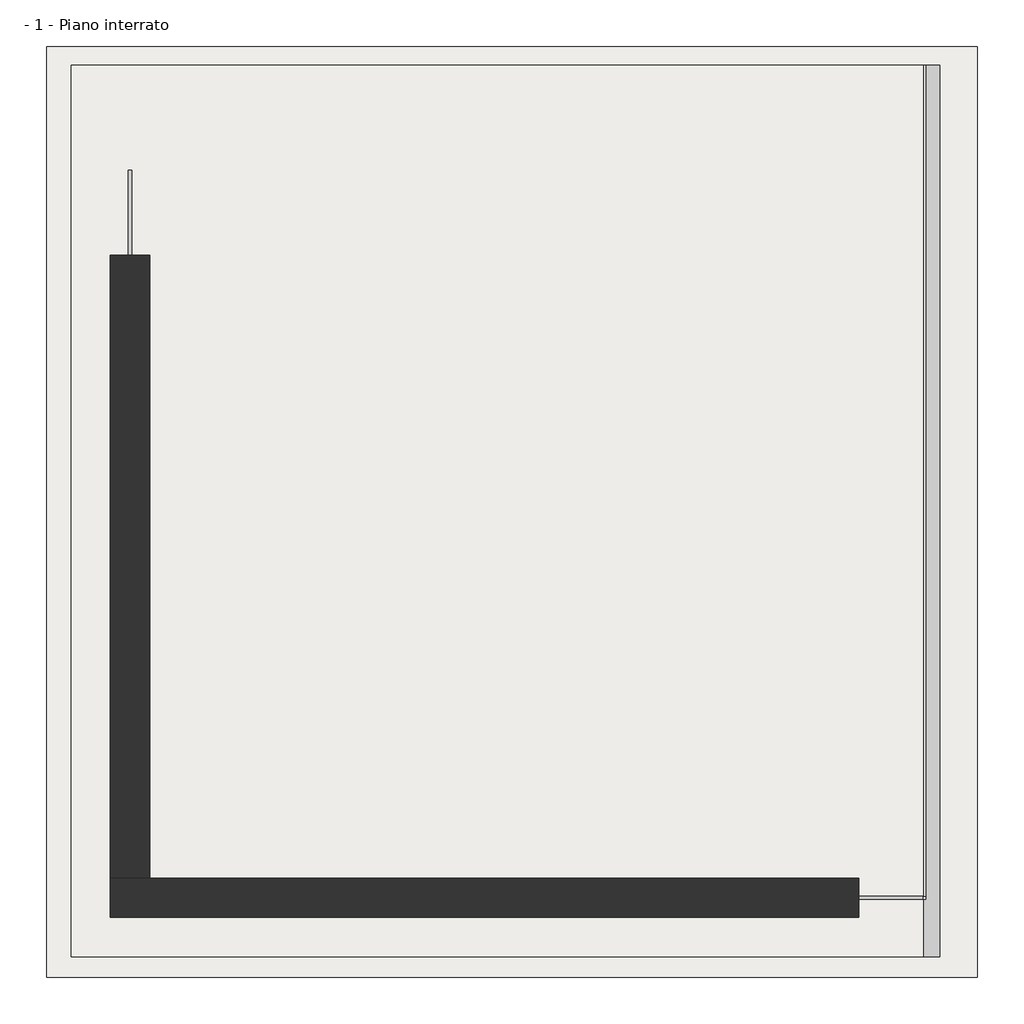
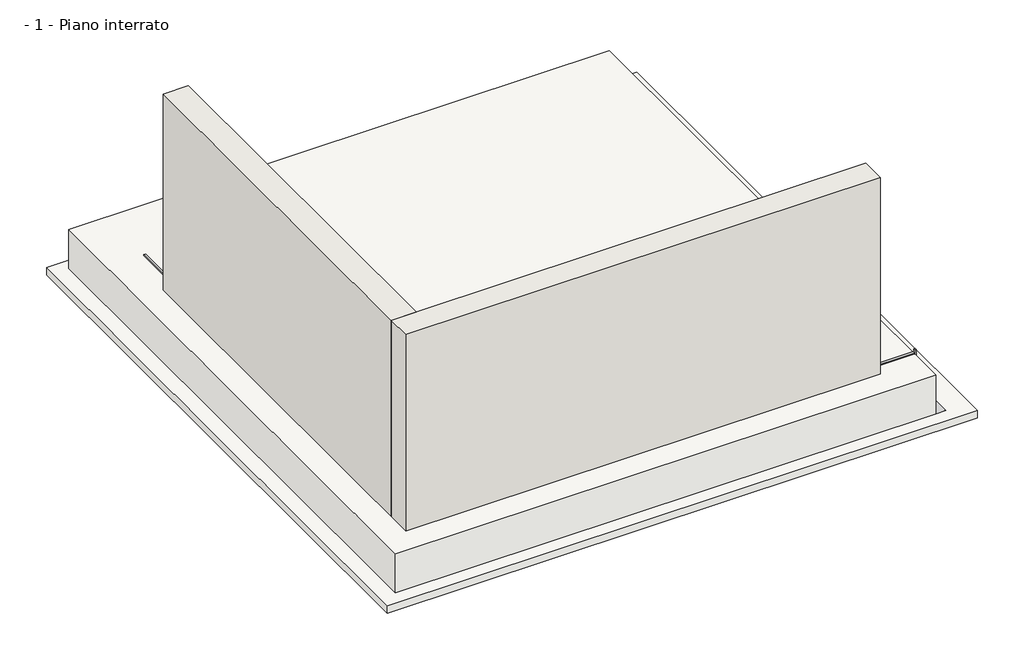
# One storey: 3 walls, 2 proxies, 2 slabs.
"""IFC4 building model written with IfcOpenShell, lengths in millimetres."""

from ifc_helpers import new_model, si_unit, frame, origin, place, context, project, spatial, polyline, outline, extrude, faceted_brep, element, save

model = new_model("IFC4")

# Units and contexts
model_context = context("Model", 3, world=origin())
ifc_project = project(units=[si_unit("LENGTHUNIT", "METRE", prefix="MILLI")], contexts=[model_context])

# Site, building, storey
site = spatial("IfcSite", under=ifc_project)
building = spatial("IfcBuilding", under=site)
storey = spatial("IfcBuildingStorey", under=building, Name="- 1 - Piano interrato", Elevation=-2500.0)

# Proxies
placement = place(None, origin())
element("IfcBuildingElementProxy", 1, Name="WT CONSTRUCTION Volteco", ObjectType="WT CONSTRUCTION Volteco", at=placement, inside=storey, context=model_context, shape_type="SweptSolid", body=[
    extrude(outline(polyline([(-7656.2815655, -9948.2549823), (-7681.2815655, -9973.2549823), (-7681.2815655, -4410.7549823), (-7656.2815655, -4410.7549823), (-7656.2815655, -9948.2549823)])), frame((0.0, 0.0, -2500.0), z_axis=(0.0, 0.0, 1.0), x_axis=(1.0, 0.0, 0.0)), (0.0, 0.0, 1.0), 15.0),
    extrude(outline(polyline([(-1617.7815655, -9948.2549823), (-1617.7815655, -9973.2549823), (-7681.2815655, -9973.2549823), (-7656.2815655, -9948.2549823), (-1617.7815655, -9948.2549823)])), frame((0.0, 0.0, -2500.0), z_axis=(0.0, 0.0, 1.0), x_axis=(1.0, 0.0, 0.0)), (0.0, 0.0, 1.0), 15.0),
])
element("IfcBuildingElementProxy", 2, Name="WT PANEL VOLTECO", ObjectType="WT PANEL VOLTECO", at=placement, inside=storey, context=model_context, shape_type="SweptSolid", body=[
    extrude(outline(polyline([(-1492.7815655, -3610.7549823), (-1492.7815655, -10410.7549823), (-1617.7815655, -10410.7549823), (-1617.7815655, -3610.7549823), (-1492.7815655, -3610.7549823)])), frame((0.0, 0.0, -3000.0), z_axis=(0.0, 0.0, 1.0), x_axis=(1.0, 0.0, 0.0)), (0.0, 0.0, 1.0), 5.0),
])

# Slabs
element("IfcSlab", 3, ObjectType="Magrone - 10 cm", at=placement, inside=storey, context=model_context, shape_type="SweptSolid", body=[
    extrude(outline(polyline([(-1204.7976812, -3468.3243285), (-1204.7976812, -10568.3243285), (-8304.7976812, -10568.3243285), (-8304.7976812, -3468.3243285), (-1204.7976812, -3468.3243285)])), frame((0.0, 0.0, -3100.0), z_axis=(0.0, 0.0, 1.0), x_axis=(1.0, 0.0, 0.0)), (0.0, 0.0, 1.0), 100.0),
])
element("IfcSlab", 4, ObjectType="Platea - 50 cm", at=placement, inside=storey, context=model_context, shape_type="Brep", body=[
    faceted_brep([(-1617.7815655, -3610.7549823, -3000.0), (-1617.7815655, -10410.7549823, -3000.0), (-8117.7815655, -10410.7549823, -3000.0), (-8117.7815655, -3610.7549823, -3000.0), (-1617.7815655, -3610.7549823, -2500.0), (-8117.7815655, -3610.7549823, -2500.0), (-8117.7815655, -10410.7549823, -2500.0), (-1617.7815655, -10410.7549823, -2500.0), (-1617.7815655, -3610.7549823, -2995.0), (-1617.7815655, -10410.7549823, -2995.0)], [[[0, 1, 2, 3]], [[4, 5, 6, 7]], [[1, 0, 8, 4, 7, 9]], [[2, 1, 9, 7, 6]], [[3, 2, 6, 5]], [[0, 3, 5, 4, 8]]]),
])

# Walls
element("IfcWall", 5, ObjectType="WT EXPANSION VOLTECO", at=placement, inside=storey, context=model_context, shape_type="SweptSolid", body=[
    extrude(outline(polyline([(-9973.2549823, -2620.0), (-9973.2549823, -2451.4865243), (-9953.2549823, -2451.4865243), (-9953.2549823, -2600.0), (-3610.7549823, -2600.0), (-3610.7549823, -2620.0), (-9973.2549823, -2620.0)])), frame((-1617.7815655, 0.0, 0.0), z_axis=(1.0, 0.0, 0.0), x_axis=(0.0, 1.0, 0.0)), (0.0, 0.0, 1.0), 20.0),
])
element("IfcWall", 6, ObjectType="Fondazione - 30 cm", at=placement, inside=storey, context=model_context, shape_type="Brep", body=[
    faceted_brep([(-7818.7815655, -9810.7549823, 0.0), (-7518.7815655, -9810.7549823, 0.0), (-2108.7815655, -9810.7549823, 0.0), (-2108.7815655, -9810.7549823, -2500.0), (-7518.7815655, -9810.7549823, -2500.0), (-7656.2815655, -9810.7549823, -2500.0), (-7656.2815655, -9810.7549823, -2485.0), (-7681.2815655, -9810.7549823, -2485.0), (-7681.2815655, -9810.7549823, -2500.0), (-7818.7815655, -9810.7549823, -2500.0), (-2108.7815655, -10110.7549823, 0.0), (-7818.7815655, -10110.7549823, 0.0), (-7818.7815655, -10110.7549823, -2500.0), (-2108.7815655, -10110.7549823, -2500.0), (-2108.7815655, -9973.2549823, -2500.0), (-2108.7815655, -9973.2549823, -2485.0), (-2108.7815655, -9948.2549823, -2485.0), (-2108.7815655, -9948.2549823, -2500.0), (-7681.2815655, -9973.2549823, -2500.0), (-7656.2815655, -9948.2549823, -2500.0), (-7681.2815655, -9973.2549823, -2485.0), (-7656.2815655, -9948.2549823, -2485.0)], [[[0, 1, 2, 3, 4, 5, 6, 7, 8, 9]], [[10, 11, 12, 13]], [[2, 1, 0, 11, 10]], [[3, 2, 10, 13, 14, 15, 16, 17]], [[0, 9, 12, 11]], [[13, 12, 9, 8, 18, 14]], [[5, 4, 3, 17, 19]], [[18, 20, 15, 14]], [[20, 18, 8, 7]], [[21, 19, 17, 16]], [[15, 20, 7, 6, 21, 16]], [[19, 21, 6, 5]]]),
])
element("IfcWall", 7, ObjectType="Fondazione - 30 cm", at=placement, inside=storey, context=model_context, shape_type="SweptSolid", body=[
    extrude(outline(polyline([(-2500.0, -7518.7815655), (0.0, -7518.7815655), (0.0, -7818.7815655), (-2500.0, -7818.7815655), (-2500.0, -7681.2815655), (-2485.0, -7681.2815655), (-2485.0, -7656.2815655), (-2500.0, -7656.2815655), (-2500.0, -7518.7815655)])), frame((0.0, -9810.7549823, 0.0), z_axis=(0.0, 1.0, 0.0), x_axis=(0.0, 0.0, 1.0)), (0.0, 0.0, 1.0), 4750.0),
])

save(model, "model.ifc")
